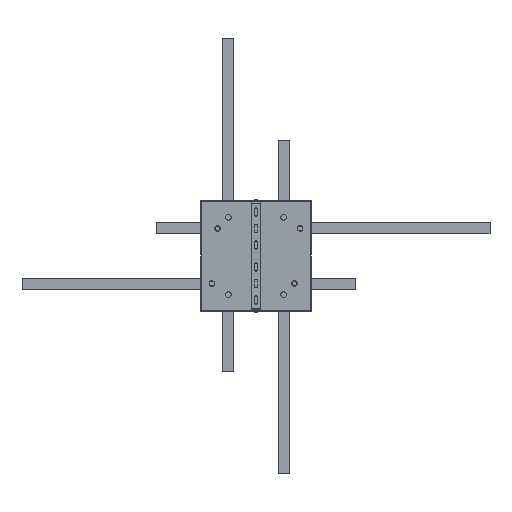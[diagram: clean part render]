
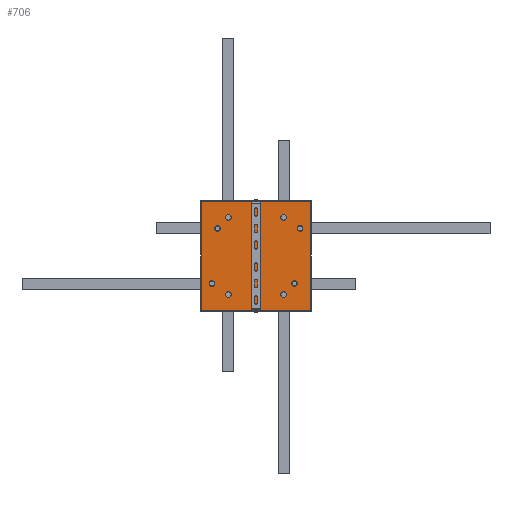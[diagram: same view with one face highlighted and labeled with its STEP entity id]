
A CAD part, front view. The second image highlights one B-rep face of the part: STEP entity #706.
In plain terms, the highlighted planar face has unit normal (0, -1, 0).
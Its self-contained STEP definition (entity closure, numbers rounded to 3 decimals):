
#425=PLANE('',#7428);
#615=FACE_BOUND('',#1738,.T.);
#616=FACE_BOUND('',#1739,.T.);
#617=FACE_BOUND('',#1740,.T.);
#618=FACE_BOUND('',#1741,.T.);
#619=FACE_BOUND('',#1742,.T.);
#620=FACE_BOUND('',#1743,.T.);
#621=FACE_BOUND('',#1744,.T.);
#622=FACE_BOUND('',#1745,.T.);
#623=FACE_BOUND('',#1746,.T.);
#706=ADVANCED_FACE('',(#615,#616,#617,#618,#619,#620,#621,#622,#623),#425,
 .F.);
#1738=EDGE_LOOP('',(#3369,#3370));
#1739=EDGE_LOOP('',(#3371,#3372));
#1740=EDGE_LOOP('',(#3373,#3374));
#1741=EDGE_LOOP('',(#3375,#3376));
#1742=EDGE_LOOP('',(#3377,#3378));
#1743=EDGE_LOOP('',(#3379,#3380));
#1744=EDGE_LOOP('',(#3381,#3382));
#1745=EDGE_LOOP('',(#3383,#3384));
#1746=EDGE_LOOP('',(#3385,#3386,#3387,#3388));
#2246=LINE('',#10268,#2748);
#2250=LINE('',#10279,#2752);
#2260=LINE('',#10315,#2762);
#2264=LINE('',#10326,#2766);
#2748=VECTOR('',#8272,1.);
#2752=VECTOR('',#8282,1.);
#2762=VECTOR('',#8310,1.);
#2766=VECTOR('',#8320,1.);
#3369=ORIENTED_EDGE('',*,*,#6115,.T.);
#3370=ORIENTED_EDGE('',*,*,#5971,.T.);
#3371=ORIENTED_EDGE('',*,*,#6116,.T.);
#3372=ORIENTED_EDGE('',*,*,#5975,.T.);
#3373=ORIENTED_EDGE('',*,*,#6117,.T.);
#3374=ORIENTED_EDGE('',*,*,#5979,.T.);
#3375=ORIENTED_EDGE('',*,*,#6118,.T.);
#3376=ORIENTED_EDGE('',*,*,#5983,.T.);
#3377=ORIENTED_EDGE('',*,*,#6119,.T.);
#3378=ORIENTED_EDGE('',*,*,#5987,.T.);
#3379=ORIENTED_EDGE('',*,*,#6120,.T.);
#3380=ORIENTED_EDGE('',*,*,#5991,.T.);
#3381=ORIENTED_EDGE('',*,*,#6121,.T.);
#3382=ORIENTED_EDGE('',*,*,#5995,.T.);
#3383=ORIENTED_EDGE('',*,*,#6122,.T.);
#3384=ORIENTED_EDGE('',*,*,#5999,.T.);
#3385=ORIENTED_EDGE('',*,*,#6084,.F.);
#3386=ORIENTED_EDGE('',*,*,#6114,.F.);
#3387=ORIENTED_EDGE('',*,*,#6108,.F.);
#3388=ORIENTED_EDGE('',*,*,#6090,.F.);
#5289=VERTEX_POINT('',#10043);
#5290=VERTEX_POINT('',#10044);
#5293=VERTEX_POINT('',#10052);
#5294=VERTEX_POINT('',#10053);
#5297=VERTEX_POINT('',#10061);
#5298=VERTEX_POINT('',#10062);
#5301=VERTEX_POINT('',#10070);
#5302=VERTEX_POINT('',#10071);
#5305=VERTEX_POINT('',#10079);
#5306=VERTEX_POINT('',#10080);
#5309=VERTEX_POINT('',#10088);
#5310=VERTEX_POINT('',#10089);
#5313=VERTEX_POINT('',#10097);
#5314=VERTEX_POINT('',#10098);
#5317=VERTEX_POINT('',#10106);
#5318=VERTEX_POINT('',#10107);
#5387=VERTEX_POINT('',#10267);
#5388=VERTEX_POINT('',#10269);
#5392=VERTEX_POINT('',#10280);
#5409=VERTEX_POINT('',#10316);
#5971=EDGE_CURVE('',#5289,#5290,#7015,.T.);
#5975=EDGE_CURVE('',#5293,#5294,#7017,.T.);
#5979=EDGE_CURVE('',#5297,#5298,#7019,.T.);
#5983=EDGE_CURVE('',#5301,#5302,#7021,.T.);
#5987=EDGE_CURVE('',#5305,#5306,#7023,.T.);
#5991=EDGE_CURVE('',#5309,#5310,#7025,.T.);
#5995=EDGE_CURVE('',#5313,#5314,#7027,.T.);
#5999=EDGE_CURVE('',#5317,#5318,#7029,.T.);
#6084=EDGE_CURVE('',#5387,#5388,#2246,.T.);
#6090=EDGE_CURVE('',#5388,#5392,#2250,.T.);
#6108=EDGE_CURVE('',#5392,#5409,#2260,.T.);
#6114=EDGE_CURVE('',#5409,#5387,#2264,.T.);
#6115=EDGE_CURVE('',#5290,#5289,#7079,.T.);
#6116=EDGE_CURVE('',#5294,#5293,#7080,.T.);
#6117=EDGE_CURVE('',#5298,#5297,#7081,.T.);
#6118=EDGE_CURVE('',#5302,#5301,#7082,.T.);
#6119=EDGE_CURVE('',#5306,#5305,#7083,.T.);
#6120=EDGE_CURVE('',#5310,#5309,#7084,.T.);
#6121=EDGE_CURVE('',#5314,#5313,#7085,.T.);
#6122=EDGE_CURVE('',#5318,#5317,#7086,.T.);
#7015=CIRCLE('',#7338,5.25);
#7017=CIRCLE('',#7341,5.25);
#7019=CIRCLE('',#7344,5.25);
#7021=CIRCLE('',#7347,5.25);
#7023=CIRCLE('',#7350,5.25);
#7025=CIRCLE('',#7353,5.25);
#7027=CIRCLE('',#7356,5.25);
#7029=CIRCLE('',#7359,5.25);
#7079=CIRCLE('',#7420,5.25);
#7080=CIRCLE('',#7421,5.25);
#7081=CIRCLE('',#7422,5.25);
#7082=CIRCLE('',#7423,5.25);
#7083=CIRCLE('',#7424,5.25);
#7084=CIRCLE('',#7425,5.25);
#7085=CIRCLE('',#7426,5.25);
#7086=CIRCLE('',#7427,5.25);
#7338=AXIS2_PLACEMENT_3D('',#10042,#8079,#8080);
#7341=AXIS2_PLACEMENT_3D('',#10051,#8087,#8088);
#7344=AXIS2_PLACEMENT_3D('',#10060,#8095,#8096);
#7347=AXIS2_PLACEMENT_3D('',#10069,#8103,#8104);
#7350=AXIS2_PLACEMENT_3D('',#10078,#8111,#8112);
#7353=AXIS2_PLACEMENT_3D('',#10087,#8119,#8120);
#7356=AXIS2_PLACEMENT_3D('',#10096,#8127,#8128);
#7359=AXIS2_PLACEMENT_3D('',#10105,#8135,#8136);
#7420=AXIS2_PLACEMENT_3D('',#10328,#8323,#8324);
#7421=AXIS2_PLACEMENT_3D('',#10329,#8325,#8326);
#7422=AXIS2_PLACEMENT_3D('',#10330,#8327,#8328);
#7423=AXIS2_PLACEMENT_3D('',#10331,#8329,#8330);
#7424=AXIS2_PLACEMENT_3D('',#10332,#8331,#8332);
#7425=AXIS2_PLACEMENT_3D('',#10333,#8333,#8334);
#7426=AXIS2_PLACEMENT_3D('',#10334,#8335,#8336);
#7427=AXIS2_PLACEMENT_3D('',#10335,#8337,#8338);
#7428=AXIS2_PLACEMENT_3D('',#10336,#8339,#8340);
#8079=DIRECTION('',(0.,1.,0.));
#8080=DIRECTION('',(0.,0.,1.));
#8087=DIRECTION('',(0.,1.,0.));
#8088=DIRECTION('',(0.,0.,1.));
#8095=DIRECTION('',(0.,1.,0.));
#8096=DIRECTION('',(0.,0.,1.));
#8103=DIRECTION('',(0.,1.,0.));
#8104=DIRECTION('',(0.,0.,1.));
#8111=DIRECTION('',(0.,1.,0.));
#8112=DIRECTION('',(0.,0.,1.));
#8119=DIRECTION('',(0.,1.,0.));
#8120=DIRECTION('',(0.,0.,1.));
#8127=DIRECTION('',(0.,1.,0.));
#8128=DIRECTION('',(0.,0.,1.));
#8135=DIRECTION('',(0.,1.,0.));
#8136=DIRECTION('',(0.,0.,1.));
#8272=DIRECTION('',(0.,0.,-1.));
#8282=DIRECTION('',(-1.,0.,0.));
#8310=DIRECTION('',(0.,0.,1.));
#8320=DIRECTION('',(1.,0.,0.));
#8323=DIRECTION('',(0.,1.,0.));
#8324=DIRECTION('',(0.,0.,1.));
#8325=DIRECTION('',(0.,1.,0.));
#8326=DIRECTION('',(0.,0.,1.));
#8327=DIRECTION('',(0.,1.,0.));
#8328=DIRECTION('',(0.,0.,1.));
#8329=DIRECTION('',(0.,1.,0.));
#8330=DIRECTION('',(0.,0.,1.));
#8331=DIRECTION('',(0.,1.,0.));
#8332=DIRECTION('',(0.,0.,1.));
#8333=DIRECTION('',(0.,1.,0.));
#8334=DIRECTION('',(0.,0.,1.));
#8335=DIRECTION('',(0.,1.,0.));
#8336=DIRECTION('',(0.,0.,1.));
#8337=DIRECTION('',(0.,1.,0.));
#8338=DIRECTION('',(0.,0.,1.));
#8339=DIRECTION('',(0.,1.,0.));
#8340=DIRECTION('',(0.,0.,-1.));
#10042=CARTESIAN_POINT('',(-50.,19.2,-70.));
#10043=CARTESIAN_POINT('',(-50.,19.2,-75.25));
#10044=CARTESIAN_POINT('',(-50.,19.2,-64.75));
#10051=CARTESIAN_POINT('',(50.,19.2,-70.));
#10052=CARTESIAN_POINT('',(50.,19.2,-75.25));
#10053=CARTESIAN_POINT('',(50.,19.2,-64.75));
#10060=CARTESIAN_POINT('',(70.,19.2,-50.));
#10061=CARTESIAN_POINT('',(70.,19.2,-55.25));
#10062=CARTESIAN_POINT('',(70.,19.2,-44.75));
#10069=CARTESIAN_POINT('',(-70.,19.2,50.));
#10070=CARTESIAN_POINT('',(-70.,19.2,44.75));
#10071=CARTESIAN_POINT('',(-70.,19.2,55.25));
#10078=CARTESIAN_POINT('',(50.,19.2,70.));
#10079=CARTESIAN_POINT('',(50.,19.2,64.75));
#10080=CARTESIAN_POINT('',(50.,19.2,75.25));
#10087=CARTESIAN_POINT('',(80.,19.2,50.));
#10088=CARTESIAN_POINT('',(80.,19.2,44.75));
#10089=CARTESIAN_POINT('',(80.,19.2,55.25));
#10096=CARTESIAN_POINT('',(-50.,19.2,70.));
#10097=CARTESIAN_POINT('',(-50.,19.2,64.75));
#10098=CARTESIAN_POINT('',(-50.,19.2,75.25));
#10105=CARTESIAN_POINT('',(-80.,19.2,-50.));
#10106=CARTESIAN_POINT('',(-80.,19.2,-55.25));
#10107=CARTESIAN_POINT('',(-80.,19.2,-44.75));
#10267=CARTESIAN_POINT('',(99.2,19.2,99.2));
#10268=CARTESIAN_POINT('',(99.2,19.2,-100.));
#10269=CARTESIAN_POINT('',(99.2,19.2,-99.2));
#10279=CARTESIAN_POINT('',(-100.,19.2,-99.2));
#10280=CARTESIAN_POINT('',(-99.2,19.2,-99.2));
#10315=CARTESIAN_POINT('',(-99.2,19.2,-100.));
#10316=CARTESIAN_POINT('',(-99.2,19.2,99.2));
#10326=CARTESIAN_POINT('',(-100.,19.2,99.2));
#10328=CARTESIAN_POINT('',(-50.,19.2,-70.));
#10329=CARTESIAN_POINT('',(50.,19.2,-70.));
#10330=CARTESIAN_POINT('',(70.,19.2,-50.));
#10331=CARTESIAN_POINT('',(-70.,19.2,50.));
#10332=CARTESIAN_POINT('',(50.,19.2,70.));
#10333=CARTESIAN_POINT('',(80.,19.2,50.));
#10334=CARTESIAN_POINT('',(-50.,19.2,70.));
#10335=CARTESIAN_POINT('',(-80.,19.2,-50.));
#10336=CARTESIAN_POINT('',(0.,19.2,0.));
